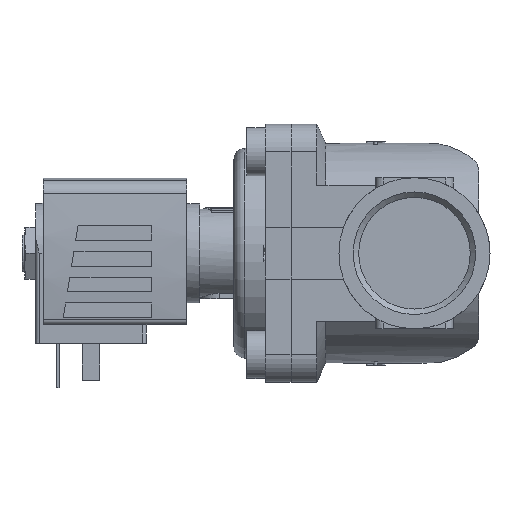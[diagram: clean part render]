
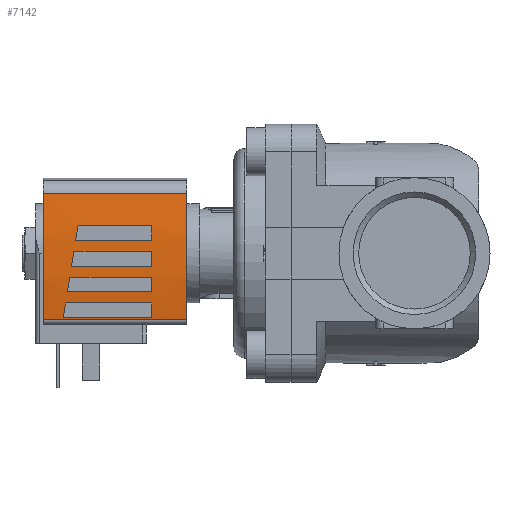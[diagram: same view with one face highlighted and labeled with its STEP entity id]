
A CAD part, left-side view. The second image highlights one B-rep face of the part: STEP entity #7142.
In plain terms, the highlighted cylindrical face has radius 130 mm (diameter 260 mm), a partial arc.
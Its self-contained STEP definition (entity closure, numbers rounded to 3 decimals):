
#80=ELLIPSE('',#7705,131.653,130.);
#81=ELLIPSE('',#7707,131.653,130.);
#82=ELLIPSE('',#7710,131.653,130.);
#83=ELLIPSE('',#7712,131.653,130.);
#232=CYLINDRICAL_SURFACE('',#7704,130.);
#673=LINE('',#11179,#1225);
#675=LINE('',#11199,#1227);
#676=LINE('',#11203,#1228);
#677=LINE('',#11204,#1229);
#678=LINE('',#11209,#1230);
#679=LINE('',#11214,#1231);
#680=LINE('',#11218,#1232);
#681=LINE('',#11222,#1233);
#682=LINE('',#11226,#1234);
#683=LINE('',#11230,#1235);
#1225=VECTOR('',#9160,1000.);
#1227=VECTOR('',#9182,1000.);
#1228=VECTOR('',#9185,1000.);
#1229=VECTOR('',#9186,1000.);
#1230=VECTOR('',#9189,1000.);
#1231=VECTOR('',#9194,1000.);
#1232=VECTOR('',#9197,1000.);
#1233=VECTOR('',#9200,1000.);
#1234=VECTOR('',#9203,1000.);
#1235=VECTOR('',#9206,1000.);
#2693=ORIENTED_EDGE('',*,*,#3772,.F.);
#2694=ORIENTED_EDGE('',*,*,#3773,.F.);
#2695=ORIENTED_EDGE('',*,*,#3774,.F.);
#2696=ORIENTED_EDGE('',*,*,#3775,.F.);
#2697=ORIENTED_EDGE('',*,*,#3776,.F.);
#2698=ORIENTED_EDGE('',*,*,#3777,.F.);
#2699=ORIENTED_EDGE('',*,*,#3778,.F.);
#2700=ORIENTED_EDGE('',*,*,#3779,.F.);
#2701=ORIENTED_EDGE('',*,*,#3780,.T.);
#2702=ORIENTED_EDGE('',*,*,#3781,.F.);
#2703=ORIENTED_EDGE('',*,*,#3766,.F.);
#2704=ORIENTED_EDGE('',*,*,#3763,.T.);
#2705=ORIENTED_EDGE('',*,*,#3782,.F.);
#2706=ORIENTED_EDGE('',*,*,#3783,.F.);
#2707=ORIENTED_EDGE('',*,*,#3784,.F.);
#2708=ORIENTED_EDGE('',*,*,#3785,.F.);
#2709=ORIENTED_EDGE('',*,*,#3786,.F.);
#2710=ORIENTED_EDGE('',*,*,#3787,.F.);
#2711=ORIENTED_EDGE('',*,*,#3788,.F.);
#2712=ORIENTED_EDGE('',*,*,#3789,.F.);
#3763=EDGE_CURVE('',#4413,#4412,#673,.T.);
#3766=EDGE_CURVE('',#4413,#4415,#4695,.T.);
#3772=EDGE_CURVE('',#4419,#4420,#80,.T.);
#3773=EDGE_CURVE('',#4421,#4419,#675,.F.);
#3774=EDGE_CURVE('',#4422,#4421,#4700,.T.);
#3775=EDGE_CURVE('',#4420,#4422,#676,.T.);
#3776=EDGE_CURVE('',#4423,#4424,#677,.T.);
#3777=EDGE_CURVE('',#4425,#4423,#81,.T.);
#3778=EDGE_CURVE('',#4426,#4425,#678,.F.);
#3779=EDGE_CURVE('',#4424,#4426,#4701,.T.);
#3780=EDGE_CURVE('',#4412,#4427,#4702,.T.);
#3781=EDGE_CURVE('',#4415,#4427,#679,.T.);
#3782=EDGE_CURVE('',#4428,#4429,#82,.T.);
#3783=EDGE_CURVE('',#4430,#4428,#680,.F.);
#3784=EDGE_CURVE('',#4431,#4430,#4703,.T.);
#3785=EDGE_CURVE('',#4429,#4431,#681,.T.);
#3786=EDGE_CURVE('',#4432,#4433,#83,.T.);
#3787=EDGE_CURVE('',#4434,#4432,#682,.F.);
#3788=EDGE_CURVE('',#4435,#4434,#4704,.T.);
#3789=EDGE_CURVE('',#4433,#4435,#683,.T.);
#4412=VERTEX_POINT('',#11178);
#4413=VERTEX_POINT('',#11180);
#4415=VERTEX_POINT('',#11186);
#4419=VERTEX_POINT('',#11197);
#4420=VERTEX_POINT('',#11198);
#4421=VERTEX_POINT('',#11200);
#4422=VERTEX_POINT('',#11202);
#4423=VERTEX_POINT('',#11205);
#4424=VERTEX_POINT('',#11206);
#4425=VERTEX_POINT('',#11208);
#4426=VERTEX_POINT('',#11210);
#4427=VERTEX_POINT('',#11213);
#4428=VERTEX_POINT('',#11216);
#4429=VERTEX_POINT('',#11217);
#4430=VERTEX_POINT('',#11219);
#4431=VERTEX_POINT('',#11221);
#4432=VERTEX_POINT('',#11224);
#4433=VERTEX_POINT('',#11225);
#4434=VERTEX_POINT('',#11227);
#4435=VERTEX_POINT('',#11229);
#4695=CIRCLE('',#7699,130.);
#4700=CIRCLE('',#7706,130.);
#4701=CIRCLE('',#7708,130.);
#4702=CIRCLE('',#7709,130.);
#4703=CIRCLE('',#7711,130.);
#4704=CIRCLE('',#7713,130.);
#5004=EDGE_LOOP('',(#2693,#2694,#2695,#2696));
#5005=EDGE_LOOP('',(#2697,#2698,#2699,#2700));
#5006=EDGE_LOOP('',(#2701,#2702,#2703,#2704));
#5007=EDGE_LOOP('',(#2705,#2706,#2707,#2708));
#5008=EDGE_LOOP('',(#2709,#2710,#2711,#2712));
#5382=FACE_BOUND('',#5004,.T.);
#5383=FACE_BOUND('',#5005,.T.);
#5384=FACE_BOUND('',#5006,.T.);
#5385=FACE_BOUND('',#5007,.T.);
#5386=FACE_BOUND('',#5008,.T.);
#7142=ADVANCED_FACE('',(#5382,#5383,#5384,#5385,#5386),#232,.T.);
#7699=AXIS2_PLACEMENT_3D('',#11185,#9167,#9168);
#7704=AXIS2_PLACEMENT_3D('',#11195,#9178,#9179);
#7705=AXIS2_PLACEMENT_3D('',#11196,#9180,#9181);
#7706=AXIS2_PLACEMENT_3D('',#11201,#9183,#9184);
#7707=AXIS2_PLACEMENT_3D('',#11207,#9187,#9188);
#7708=AXIS2_PLACEMENT_3D('',#11211,#9190,#9191);
#7709=AXIS2_PLACEMENT_3D('',#11212,#9192,#9193);
#7710=AXIS2_PLACEMENT_3D('',#11215,#9195,#9196);
#7711=AXIS2_PLACEMENT_3D('',#11220,#9198,#9199);
#7712=AXIS2_PLACEMENT_3D('',#11223,#9201,#9202);
#7713=AXIS2_PLACEMENT_3D('',#11228,#9204,#9205);
#9160=DIRECTION('',(0.,-1.,0.));
#9167=DIRECTION('',(0.,1.,0.));
#9168=DIRECTION('',(1.,0.,0.));
#9178=DIRECTION('',(0.,-1.,0.));
#9179=DIRECTION('',(0.,0.,-1.));
#9180=DIRECTION('',(-0.158,-0.987,0.));
#9181=DIRECTION('',(0.987,-0.158,0.));
#9182=DIRECTION('',(0.,-1.,0.));
#9183=DIRECTION('',(0.,1.,0.));
#9184=DIRECTION('',(0.,0.,1.));
#9185=DIRECTION('',(0.,-1.,0.));
#9186=DIRECTION('',(0.,-1.,0.));
#9187=DIRECTION('',(-0.158,-0.987,0.));
#9188=DIRECTION('',(0.987,-0.158,0.));
#9189=DIRECTION('',(0.,-1.,0.));
#9190=DIRECTION('',(0.,1.,0.));
#9191=DIRECTION('',(0.,0.,1.));
#9192=DIRECTION('',(0.,1.,0.));
#9193=DIRECTION('',(1.,0.,0.));
#9194=DIRECTION('',(0.,-1.,0.));
#9195=DIRECTION('',(-0.158,-0.987,0.));
#9196=DIRECTION('',(0.987,-0.158,0.));
#9197=DIRECTION('',(0.,-1.,0.));
#9198=DIRECTION('',(0.,1.,0.));
#9199=DIRECTION('',(0.,0.,1.));
#9200=DIRECTION('',(0.,-1.,0.));
#9201=DIRECTION('',(-0.158,-0.987,0.));
#9202=DIRECTION('',(0.987,-0.158,0.));
#9203=DIRECTION('',(0.,-1.,0.));
#9204=DIRECTION('',(0.,1.,0.));
#9205=DIRECTION('',(0.,0.,1.));
#9206=DIRECTION('',(0.,-1.,0.));
#11178=CARTESIAN_POINT('',(-18.071,-26.,14.738));
#11179=CARTESIAN_POINT('',(-18.071,13.,14.738));
#11180=CARTESIAN_POINT('',(-18.071,13.,14.738));
#11185=CARTESIAN_POINT('',(0.,13.,-114.));
#11186=CARTESIAN_POINT('',(16.195,13.,14.987));
#11195=CARTESIAN_POINT('',(0.,13.,-114.));
#11196=CARTESIAN_POINT('',(0.,4.7,-114.));
#11197=CARTESIAN_POINT('',(0.5,4.62,15.999));
#11198=CARTESIAN_POINT('',(-3.5,5.26,15.953));
#11199=CARTESIAN_POINT('',(0.5,13.,15.999));
#11200=CARTESIAN_POINT('',(0.5,-16.5,15.999));
#11201=CARTESIAN_POINT('',(0.,-16.5,-114.));
#11202=CARTESIAN_POINT('',(-3.5,-16.5,15.953));
#11203=CARTESIAN_POINT('',(-3.5,13.,15.953));
#11204=CARTESIAN_POINT('',(-17.5,13.,14.817));
#11205=CARTESIAN_POINT('',(-17.5,7.5,14.817));
#11206=CARTESIAN_POINT('',(-17.5,-16.5,14.817));
#11207=CARTESIAN_POINT('',(0.,4.7,-114.));
#11208=CARTESIAN_POINT('',(-13.5,6.86,15.297));
#11209=CARTESIAN_POINT('',(-13.5,13.,15.297));
#11210=CARTESIAN_POINT('',(-13.5,-16.5,15.297));
#11211=CARTESIAN_POINT('',(0.,-16.5,-114.));
#11212=CARTESIAN_POINT('',(0.,-26.,-114.));
#11213=CARTESIAN_POINT('',(16.195,-26.,14.987));
#11214=CARTESIAN_POINT('',(16.195,13.,14.987));
#11215=CARTESIAN_POINT('',(0.,4.7,-114.));
#11216=CARTESIAN_POINT('',(-6.5,5.74,15.837));
#11217=CARTESIAN_POINT('',(-10.5,6.38,15.575));
#11218=CARTESIAN_POINT('',(-6.5,13.,15.837));
#11219=CARTESIAN_POINT('',(-6.5,-16.5,15.837));
#11220=CARTESIAN_POINT('',(0.,-16.5,-114.));
#11221=CARTESIAN_POINT('',(-10.5,-16.5,15.575));
#11222=CARTESIAN_POINT('',(-10.5,13.,15.575));
#11223=CARTESIAN_POINT('',(0.,4.7,-114.));
#11224=CARTESIAN_POINT('',(7.5,3.5,15.783));
#11225=CARTESIAN_POINT('',(3.5,4.14,15.953));
#11226=CARTESIAN_POINT('',(7.5,13.,15.783));
#11227=CARTESIAN_POINT('',(7.5,-16.5,15.783));
#11228=CARTESIAN_POINT('',(0.,-16.5,-114.));
#11229=CARTESIAN_POINT('',(3.5,-16.5,15.953));
#11230=CARTESIAN_POINT('',(3.5,13.,15.953));
